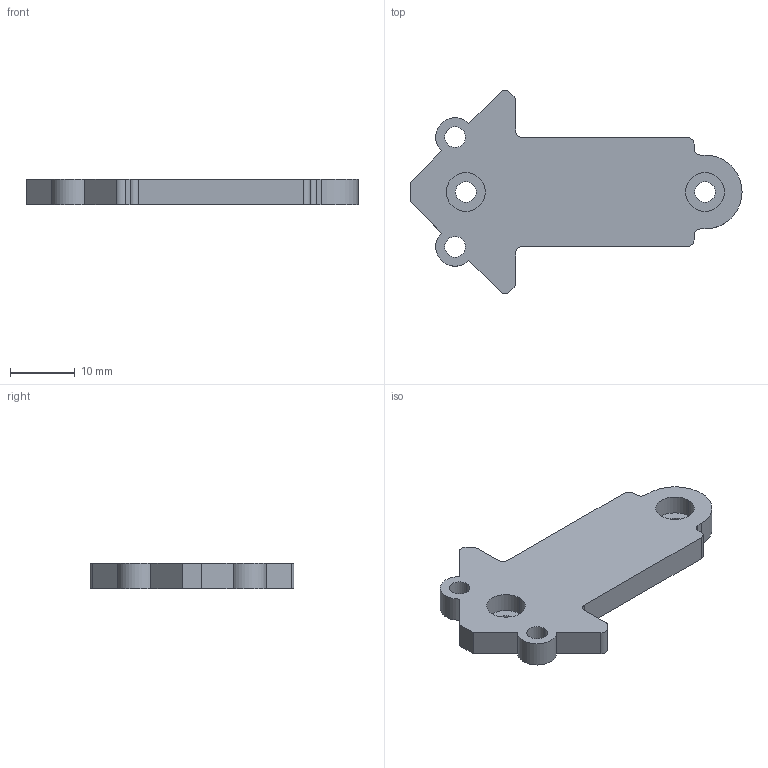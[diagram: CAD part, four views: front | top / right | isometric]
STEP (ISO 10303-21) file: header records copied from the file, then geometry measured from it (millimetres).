
FILE_DESCRIPTION (( 'STEP AP214' ), '1' );
FILE_NAME ('IR_Cover_Back.STEP', '2025-11-07T13:56:07', ( '' ), ( '' ), 'SwSTEP 2.0', 'SolidWorks 2025', '' );
FILE_SCHEMA (( 'AUTOMOTIVE_DESIGN' ));
Length unit declared in the file: millimetre
Products named in the file (1): IR_Cover_Back
Bounding box: 51.21 x 31.4 x 4 mm (x, y, z)
Volume: 3230.1 mm3; surface area: 2474.2 mm2
Topology: 1 solids, 1 shells, 44 faces, 120 edges, 80 vertices
Faces by surface type: cylinder 25, plane 19
Entity records: 1453 total; most frequent: DIRECTION 260, CARTESIAN_POINT 245, ORIENTED_EDGE 240, EDGE_CURVE 120, AXIS2_PLACEMENT_3D 95, VERTEX_POINT 80, VECTOR 70, LINE 70
